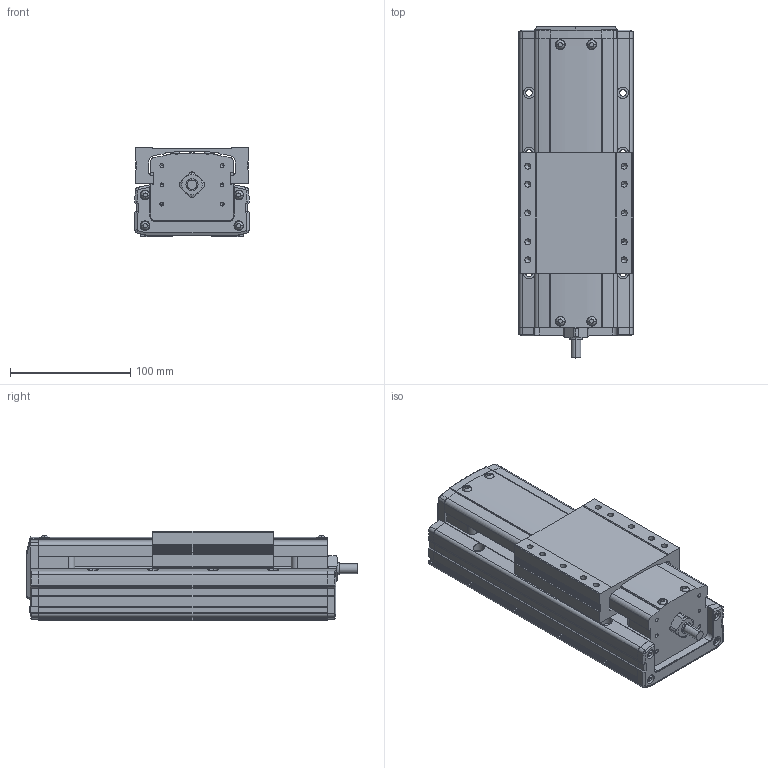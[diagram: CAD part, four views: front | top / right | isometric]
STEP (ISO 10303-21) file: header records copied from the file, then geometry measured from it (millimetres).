
FILE_DESCRIPTION(('STEP AP214'),'1');
FILE_NAME('Z:/Web/3D/PSA95/STP/PSA95-050 (3D)/PSA95ㅁㅁ-050S.stp','2014-07-02T23:25:31',(' '),(' '),'Spatial InterOp 3D',' ',' ');
FILE_SCHEMA(('automotive_design'));
Length unit declared in the file: millimetre
Products named in the file (18): BASE; RRCV; 스크루 : Round - M4.0 x 10.0; 너트 : Square - M10.0 x 220.7419; RR1500; FRCV-090; 스크루 : Round - M4.0 x 6.0; SLBL-PA90
Bounding box: 95 x 276 x 74 mm (x, y, z)
Volume: 1446894.1 mm3; surface area: 186171.8 mm2
Topology: 18 solids, 18 shells, 1633 faces, 4422 edges, 2855 vertices
Faces by surface type: plane 997, cylinder 449, cone 119, sphere 30, bspline 24, torus 14
Entity records: 66661 total; most frequent: CARTESIAN_POINT 11845, ORIENTED_EDGE 8720, DIRECTION 8568, EDGE_CURVE 4360, LINE 3120, VECTOR 3120, VERTEX_POINT 2855, AXIS2_PLACEMENT_3D 2724
